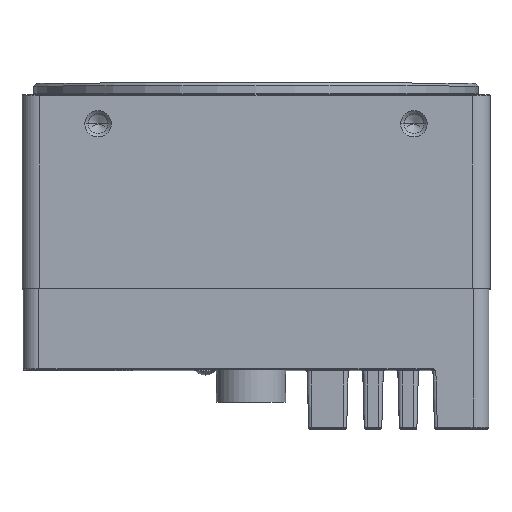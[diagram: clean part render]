
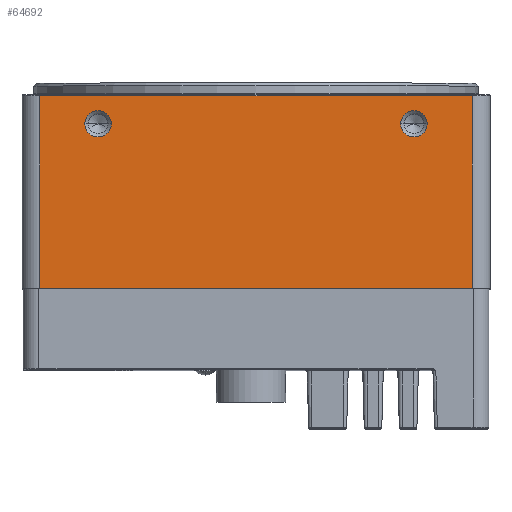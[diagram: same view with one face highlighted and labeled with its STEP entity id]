
A CAD part, top view. The second image highlights one B-rep face of the part: STEP entity #64692.
In plain terms, the highlighted planar face has unit normal (0, 0, 1).
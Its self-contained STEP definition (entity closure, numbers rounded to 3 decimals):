
#6584=DIRECTION('',(0.,-1.,0.));
#6585=VECTOR('',#6584,32.95);
#6586=CARTESIAN_POINT('',(-37.,-0.2,40.));
#6587=LINE('',#6586,#6585);
#6591=DIRECTION('',(1.,0.,0.));
#6592=VECTOR('',#6591,74.);
#6593=CARTESIAN_POINT('',(-37.,-0.2,40.));
#6594=LINE('',#6593,#6592);
#6598=DIRECTION('',(0.,-1.,0.));
#6599=VECTOR('',#6598,32.95);
#6600=CARTESIAN_POINT('',(37.,-0.2,40.));
#6601=LINE('',#6600,#6599);
#6605=CARTESIAN_POINT('',(-27.,-5.,40.));
#6606=DIRECTION('',(0.,0.,1.));
#6607=DIRECTION('',(-1.,0.,0.));
#6608=AXIS2_PLACEMENT_3D('',#6605,#6606,#6607);
#6613=CARTESIAN_POINT('',(-27.,-5.,40.));
#6614=DIRECTION('',(0.,0.,1.));
#6615=DIRECTION('',(1.,0.,0.));
#6616=AXIS2_PLACEMENT_3D('',#6613,#6614,#6615);
#6621=CARTESIAN_POINT('',(27.,-5.,40.));
#6622=DIRECTION('',(0.,0.,1.));
#6623=DIRECTION('',(-1.,0.,0.));
#6624=AXIS2_PLACEMENT_3D('',#6621,#6622,#6623);
#6629=CARTESIAN_POINT('',(27.,-5.,40.));
#6630=DIRECTION('',(0.,0.,1.));
#6631=DIRECTION('',(1.,0.,0.));
#6632=AXIS2_PLACEMENT_3D('',#6629,#6630,#6631);
#6675=DIRECTION('',(-1.,0.,0.));
#6676=VECTOR('',#6675,74.);
#6677=CARTESIAN_POINT('',(37.,-33.15,40.));
#6678=LINE('',#6677,#6676);
#53243=CARTESIAN_POINT('',(-29.25,-5.,40.));
#53244=CARTESIAN_POINT('',(-24.75,-5.,40.));
#53245=VERTEX_POINT('',#53243);
#53246=VERTEX_POINT('',#53244);
#53257=CARTESIAN_POINT('',(24.75,-5.,40.));
#53258=CARTESIAN_POINT('',(29.25,-5.,40.));
#53259=VERTEX_POINT('',#53257);
#53260=VERTEX_POINT('',#53258);
#53640=CARTESIAN_POINT('',(37.,-33.15,40.));
#53641=VERTEX_POINT('',#53640);
#53642=CARTESIAN_POINT('',(-37.,-33.15,40.));
#53643=VERTEX_POINT('',#53642);
#53684=CARTESIAN_POINT('',(-37.,-0.2,40.));
#53685=VERTEX_POINT('',#53684);
#53688=CARTESIAN_POINT('',(37.,-0.2,40.));
#53689=VERTEX_POINT('',#53688);
#64667=CARTESIAN_POINT('',(-40.,0.,40.));
#64668=DIRECTION('',(0.,0.,1.));
#64669=DIRECTION('',(1.,0.,0.));
#64670=AXIS2_PLACEMENT_3D('',#64667,#64668,#64669);
#64671=PLANE('',#64670);
#64672=ORIENTED_EDGE('',*,*,#64450,.T.);
#64674=ORIENTED_EDGE('',*,*,#64673,.T.);
#64676=ORIENTED_EDGE('',*,*,#64675,.T.);
#64677=ORIENTED_EDGE('',*,*,#64652,.F.);
#64678=EDGE_LOOP('',(#64672,#64674,#64676,#64677));
#64679=FACE_OUTER_BOUND('',#64678,.F.);
#64681=ORIENTED_EDGE('',*,*,#64680,.T.);
#64683=ORIENTED_EDGE('',*,*,#64682,.T.);
#64684=EDGE_LOOP('',(#64681,#64683));
#64685=FACE_BOUND('',#64684,.F.);
#64687=ORIENTED_EDGE('',*,*,#64686,.T.);
#64689=ORIENTED_EDGE('',*,*,#64688,.T.);
#64690=EDGE_LOOP('',(#64687,#64689));
#64691=FACE_BOUND('',#64690,.F.);
#64692=ADVANCED_FACE('',(#64679,#64685,#64691),#64671,.T.);
#6609=CIRCLE('',#6608,2.25);
#6617=CIRCLE('',#6616,2.25);
#6625=CIRCLE('',#6624,2.25);
#6633=CIRCLE('',#6632,2.25);
#64450=EDGE_CURVE('',#53685,#53689,#6594,.T.);
#64652=EDGE_CURVE('',#53685,#53643,#6587,.T.);
#64673=EDGE_CURVE('',#53689,#53641,#6601,.T.);
#64675=EDGE_CURVE('',#53641,#53643,#6678,.T.);
#64680=EDGE_CURVE('',#53245,#53246,#6609,.T.);
#64682=EDGE_CURVE('',#53246,#53245,#6617,.T.);
#64686=EDGE_CURVE('',#53259,#53260,#6625,.T.);
#64688=EDGE_CURVE('',#53260,#53259,#6633,.T.);
